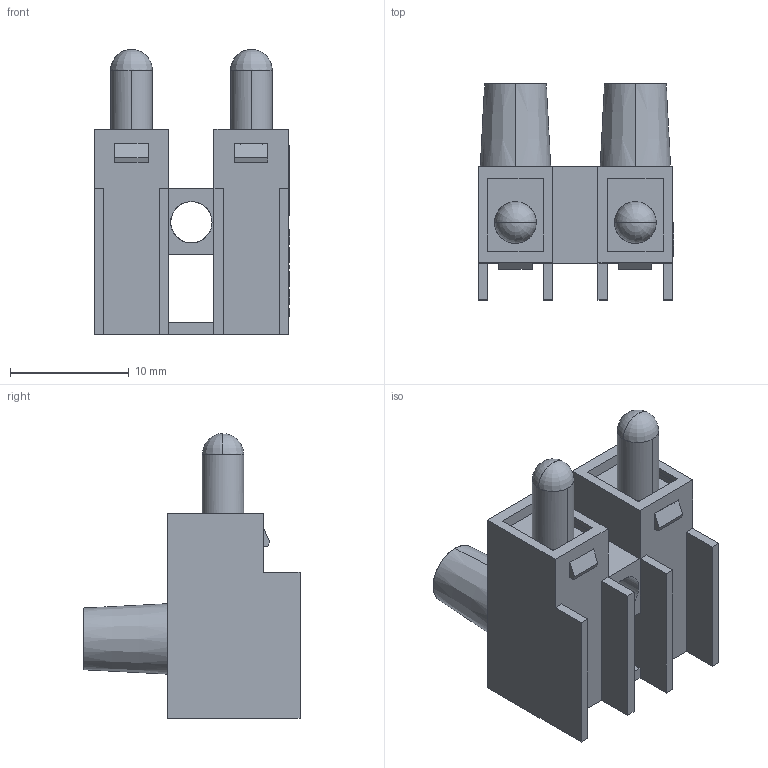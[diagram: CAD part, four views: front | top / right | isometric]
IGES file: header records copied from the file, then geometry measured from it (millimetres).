
Global section: file name: C:\Programme\core_technologie\in\007YR01Y07.igs; native system: CT CoreTechnologie 3D Evolution; preprocessor: 2006; author: assmuth; date: 100304.150648; units: millimetre
Bounding box: 16.5 x 18.2 x 24 mm (x, y, z)
Surface area: 2270.4 mm2 (no closed solid volume)
Topology: 0 solids, 0 shells, 207 faces, 946 edges, 917 vertices
Faces by surface type: bspline 207
